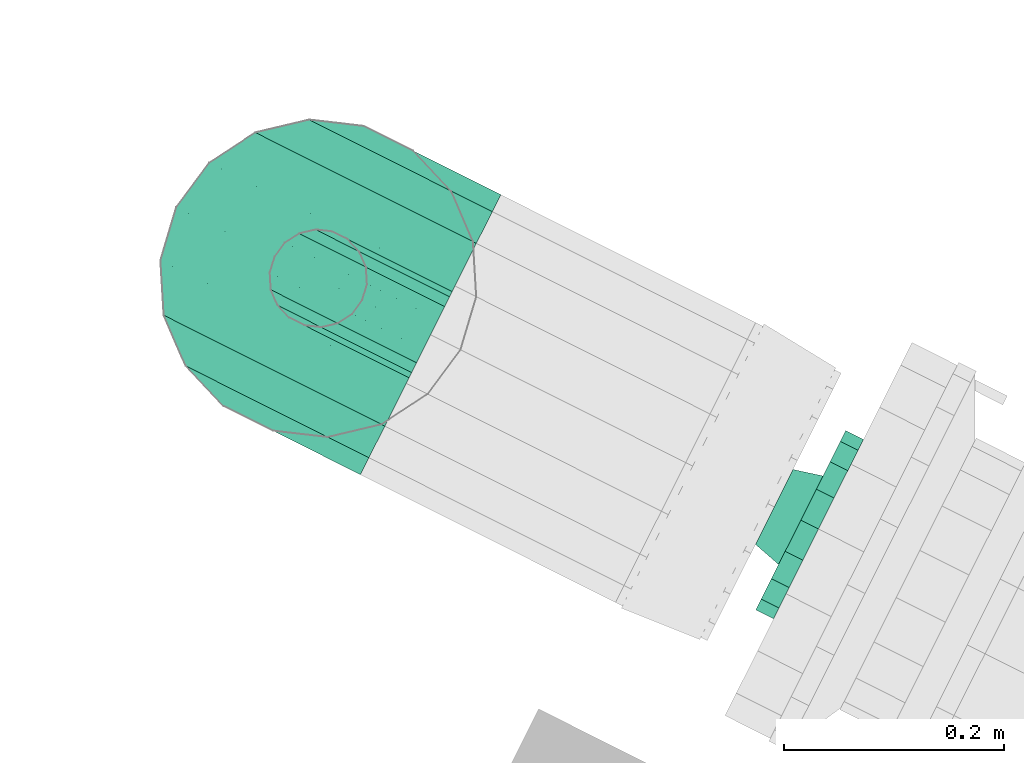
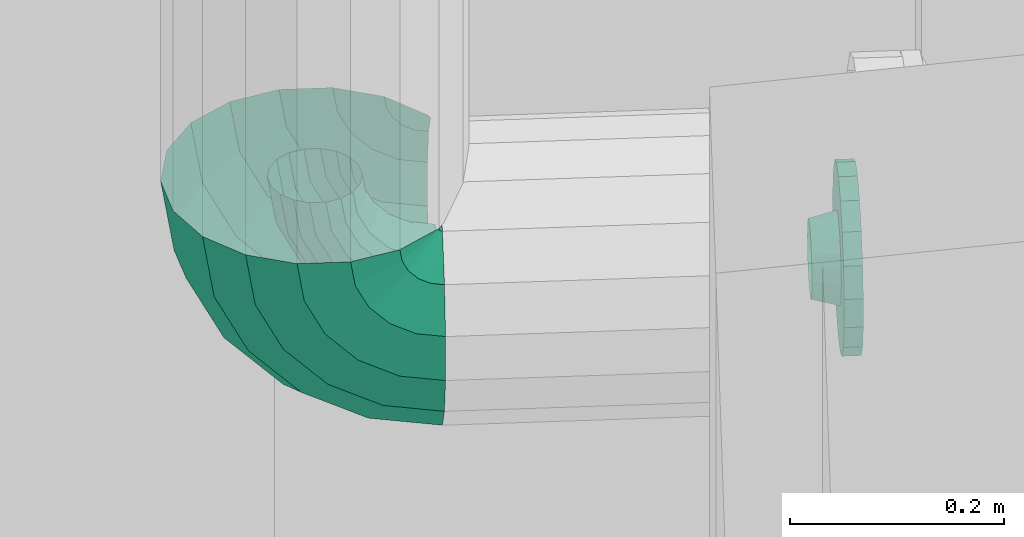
# One storey, part 155 of 206: 1 flow fitting, 1 flow segment.
"""IFC2X3 building model written with IfcOpenShell, lengths in metres."""

from ifc_helpers import new_model, si_unit, derived_unit, direction, frame, origin, place, context, subcontext, project, spatial, face_set, surface_model, source, transform, mapped, material, type_object, type_shapes, element, save


model = new_model("IFC2X3")

# Units and contexts
model_context = context("Model", 3, precision=5.2338327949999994e-05, world=origin(), true_north=direction((0.0, 1.0)))
body_context = subcontext(model_context, "Body", "Model", "MODEL_VIEW")
ifc_project = project(units=[si_unit("LENGTHUNIT", "METRE"), si_unit("AREAUNIT", "SQUARE_METRE"), si_unit("VOLUMEUNIT", "CUBIC_METRE"), si_unit("MASSUNIT", "GRAM", prefix="KILO"), si_unit("PLANEANGLEUNIT", "RADIAN"), derived_unit("THERMALTRANSMITTANCEUNIT", [(si_unit("MASSUNIT", "GRAM", prefix="KILO"), 1), (si_unit("THERMODYNAMICTEMPERATUREUNIT", "KELVIN"), -1), (si_unit("TIMEUNIT", "SECOND"), -3)])], contexts=[model_context])

# Site, building, storey
site_placement = place(None, frame((0.0, 0.0, 0.0), z_axis=(0.0, 0.0, 1.0), x_axis=(0.8939966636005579, -0.4480736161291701, 0.0)))
site = spatial("IfcSite", under=ifc_project, at=site_placement, Name="Default", CompositionType="ELEMENT")
building_placement = place(site_placement, origin())
building = spatial("IfcBuilding", under=site, at=building_placement, CompositionType="ELEMENT")
storey_placement = place(building_placement, origin())
storey = spatial("IfcBuildingStorey", under=building, at=storey_placement, Name="Erdgeschoss", CompositionType="ELEMENT", Elevation=0.0)

# Flow segment
ifc_material = material(Name="IfcSurfaceStyle #1741")
distribution_element_type_1 = type_object("IfcDistributionElementType", Name="Rohrbogen 347946:Rohrbogen 347946", material=ifc_material)
shared_shape_1 = source(origin(), body_context, "Body", "SurfaceModel", [
    surface_model("IfcFaceBasedSurfaceModel", [(28.509229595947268, 10.40320802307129, 2.3790363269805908), (28.501474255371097, 10.40320802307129, 2.428000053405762), (28.511778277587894, 10.41841174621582, 2.379864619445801), (28.504155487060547, 10.41841174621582, 2.428000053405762), (28.531735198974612, 10.40320802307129, 2.3348654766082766), (28.533904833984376, 10.41841174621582, 2.3364411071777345), (28.56679119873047, 10.40320802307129, 2.299811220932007), (28.568365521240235, 10.41841174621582, 2.3019799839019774), (28.610960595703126, 10.40320802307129, 2.2773050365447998), (28.61178845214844, 10.41841174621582, 2.2798545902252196), (28.659925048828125, 10.40320802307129, 2.26954998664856), (28.659925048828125, 10.41841174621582, 2.2722306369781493), (28.51187362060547, 10.431780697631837, 2.428000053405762), (28.51911968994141, 10.431780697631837, 2.382249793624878), (28.540148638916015, 10.431780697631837, 2.3409780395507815), (28.57290245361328, 10.431780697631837, 2.3082245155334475), (28.614174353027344, 10.431780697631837, 2.2871954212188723), (28.659925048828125, 10.431780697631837, 2.2799493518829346), (28.523700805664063, 10.44170334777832, 2.428000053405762), (28.530367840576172, 10.44170334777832, 2.385904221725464), (28.549715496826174, 10.44170334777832, 2.347928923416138), (28.579853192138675, 10.44170334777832, 2.3177916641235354), (28.617829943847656, 10.44170334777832, 2.2984422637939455), (28.659925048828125, 10.44170334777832, 2.2917749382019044), (28.54416234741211, 10.44698325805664, 2.390386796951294), (28.538206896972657, 10.44698325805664, 2.428000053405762), (28.561451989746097, 10.44698325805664, 2.356455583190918), (28.588380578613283, 10.44698325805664, 2.329527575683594), (28.62231106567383, 10.44698325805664, 2.3122386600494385), (28.659925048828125, 10.44698325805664, 2.30628132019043), (28.5536431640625, 10.44698325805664, 2.428000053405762), (28.558845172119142, 10.44698325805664, 2.395157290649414), (28.57394192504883, 10.44698325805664, 2.365529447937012), (28.597454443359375, 10.44698325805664, 2.342016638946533), (28.627082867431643, 10.44698325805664, 2.326920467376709), (28.659925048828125, 10.44698325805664, 2.321718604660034), (28.57264200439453, 10.44170334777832, 2.39964001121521), (28.568149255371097, 10.44170334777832, 2.428000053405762), (28.585676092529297, 10.44170334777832, 2.3740559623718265), (28.605981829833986, 10.44170334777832, 2.353752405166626), (28.631563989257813, 10.44170334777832, 2.3407167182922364), (28.659925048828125, 10.44170334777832, 2.33622498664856), (28.57997644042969, 10.431780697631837, 2.428000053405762), (28.583887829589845, 10.431780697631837, 2.40329429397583), (28.59524527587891, 10.431780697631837, 2.3810069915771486), (28.612932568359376, 10.431780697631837, 2.36331969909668), (28.635219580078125, 10.431780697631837, 2.3519637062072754), (28.659925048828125, 10.431780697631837, 2.3480507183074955), (28.59122924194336, 10.41841174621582, 2.4056794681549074), (28.58769457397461, 10.41841174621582, 2.428000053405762), (28.60148908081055, 10.41841174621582, 2.385543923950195), (28.617469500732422, 10.41841174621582, 2.3695642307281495), (28.637603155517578, 10.41841174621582, 2.359304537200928), (28.659925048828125, 10.41841174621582, 2.3557692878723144), (28.590375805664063, 10.40320802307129, 2.428000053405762), (28.593777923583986, 10.40320802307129, 2.4065079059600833), (28.603658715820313, 10.40320802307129, 2.3871195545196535), (28.61904382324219, 10.40320802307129, 2.3717328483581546), (28.638433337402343, 10.40320802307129, 2.361854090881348), (28.659925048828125, 10.40320802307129, 2.3584499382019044), (28.58769457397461, 10.388005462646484, 2.428000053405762), (28.59122924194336, 10.388005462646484, 2.4056794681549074), (28.60148908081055, 10.388005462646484, 2.385543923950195), (28.617469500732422, 10.388005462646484, 2.3695642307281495), (28.637603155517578, 10.388005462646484, 2.359304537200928), (28.659925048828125, 10.388005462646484, 2.3557692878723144), (28.57997644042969, 10.37463651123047, 2.428000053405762), (28.583887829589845, 10.37463651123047, 2.40329429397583), (28.59524527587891, 10.37463651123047, 2.3810069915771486), (28.612932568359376, 10.37463651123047, 2.36331969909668), (28.635219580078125, 10.37463651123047, 2.3519637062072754), (28.659925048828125, 10.37463651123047, 2.3480507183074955), (28.57264200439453, 10.364713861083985, 2.39964001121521), (28.568149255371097, 10.364713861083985, 2.428000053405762), (28.585676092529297, 10.364713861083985, 2.3740559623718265), (28.605981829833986, 10.364713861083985, 2.353752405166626), (28.631563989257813, 10.364713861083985, 2.3407167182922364), (28.659925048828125, 10.364713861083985, 2.33622498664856), (28.5536431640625, 10.359433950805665, 2.428000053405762), (28.558845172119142, 10.359433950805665, 2.395157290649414), (28.57394192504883, 10.359433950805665, 2.365529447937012), (28.597454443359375, 10.359433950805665, 2.342016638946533), (28.627082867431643, 10.359433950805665, 2.326920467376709), (28.659925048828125, 10.359433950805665, 2.321718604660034), (28.54416234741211, 10.359433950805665, 2.390386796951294), (28.538206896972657, 10.359433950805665, 2.428000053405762), (28.561451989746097, 10.359433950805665, 2.356455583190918), (28.588380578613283, 10.359433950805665, 2.329527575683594), (28.62231106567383, 10.359433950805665, 2.3122386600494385), (28.659925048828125, 10.359433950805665, 2.30628132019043), (28.523700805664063, 10.364713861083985, 2.428000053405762), (28.530367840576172, 10.364713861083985, 2.385904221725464), (28.549715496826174, 10.364713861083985, 2.347928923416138), (28.579853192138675, 10.364713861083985, 2.3177916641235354), (28.617829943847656, 10.364713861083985, 2.2984422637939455), (28.659925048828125, 10.364713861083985, 2.2917749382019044), (28.51187362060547, 10.37463651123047, 2.428000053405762), (28.51911968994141, 10.37463651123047, 2.382249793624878), (28.540148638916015, 10.37463651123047, 2.3409780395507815), (28.57290245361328, 10.37463651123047, 2.3082245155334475), (28.614174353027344, 10.37463651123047, 2.2871954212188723), (28.659925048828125, 10.37463651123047, 2.2799493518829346), (28.511778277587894, 10.388005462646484, 2.379864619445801), (28.504155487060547, 10.388005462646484, 2.428000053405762), (28.533904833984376, 10.388005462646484, 2.3364411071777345), (28.568365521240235, 10.388005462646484, 2.3019799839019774), (28.41412377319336, 10.40320802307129, 2.3481345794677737), (28.401475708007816, 10.40320802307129, 2.428000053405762), (28.422409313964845, 10.452613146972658, 2.3508265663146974), (28.41018680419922, 10.452613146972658, 2.428000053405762), (28.450833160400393, 10.40320802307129, 2.27608694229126), (28.457881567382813, 10.452613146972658, 2.2812072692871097), (28.50801106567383, 10.40320802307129, 2.2189096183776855), (28.51313168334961, 10.452613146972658, 2.2259572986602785), (28.580060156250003, 10.40320802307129, 2.1821995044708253), (28.582750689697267, 10.452613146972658, 2.1904844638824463), (28.659925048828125, 10.40320802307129, 2.16954998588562), (28.659925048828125, 10.452613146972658, 2.178261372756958), (28.435268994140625, 10.496059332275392, 2.428000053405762), (28.446265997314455, 10.496059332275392, 2.3585776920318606), (28.478175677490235, 10.496059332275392, 2.2959509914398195), (28.527874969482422, 10.496059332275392, 2.246250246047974), (28.59050137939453, 10.496059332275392, 2.214340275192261), (28.659925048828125, 10.496059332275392, 2.2033448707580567), (28.47369920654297, 10.528306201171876, 2.428000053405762), (28.482814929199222, 10.528306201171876, 2.3704532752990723), (28.509264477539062, 10.528306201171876, 2.3185397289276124), (28.55046428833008, 10.528306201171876, 2.2773407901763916), (28.602377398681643, 10.528306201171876, 2.2508894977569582), (28.659925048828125, 10.528306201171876, 2.2417749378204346), (28.52764940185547, 10.545463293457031, 2.3850208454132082), (28.52084051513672, 10.545463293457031, 2.428000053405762), (28.547404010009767, 10.545463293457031, 2.346248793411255), (28.578174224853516, 10.545463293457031, 2.315479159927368), (28.61694627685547, 10.545463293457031, 2.2957236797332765), (28.659925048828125, 10.545463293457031, 2.2889165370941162), (28.575360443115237, 10.545463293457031, 2.4005232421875), (28.571007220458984, 10.545463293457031, 2.428000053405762), (28.587989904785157, 10.545463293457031, 2.375736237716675), (28.60766079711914, 10.545463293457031, 2.356065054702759), (28.63244765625, 10.545463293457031, 2.3434353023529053), (28.659925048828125, 10.545463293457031, 2.339083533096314), (28.61815085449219, 10.528306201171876, 2.428000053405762), (28.620194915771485, 10.528306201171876, 2.415090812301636), (28.62612711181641, 10.528306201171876, 2.4034453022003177), (28.63537073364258, 10.528306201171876, 2.3942032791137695), (28.64701653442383, 10.528306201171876, 2.3882696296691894), (28.659925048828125, 10.528306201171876, 2.3862249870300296), (28.65657874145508, 10.496059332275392, 2.428000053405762), (28.65674384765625, 10.496059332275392, 2.4269663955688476), (28.65721823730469, 10.496059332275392, 2.4260338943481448), (28.657957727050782, 10.496059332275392, 2.4252939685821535), (28.658890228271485, 10.496059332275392, 2.4248188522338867), (28.659925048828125, 10.496059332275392, 2.4246550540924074), (28.659925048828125, 10.49026549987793, 2.428000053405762), (28.659925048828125, 10.490511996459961, 2.427098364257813), (28.659925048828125, 10.316151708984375, 2.428000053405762), (28.659925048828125, 10.315904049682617, 2.427098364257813), (28.65674384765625, 10.310357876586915, 2.4269663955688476), (28.65657874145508, 10.310357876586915, 2.428000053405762), (28.65721823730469, 10.310357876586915, 2.4260338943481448), (28.657957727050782, 10.310357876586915, 2.4252939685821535), (28.658890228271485, 10.310357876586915, 2.4248188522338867), (28.659925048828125, 10.310357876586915, 2.4246550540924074), (28.620194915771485, 10.27811100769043, 2.415090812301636), (28.61815085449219, 10.27811100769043, 2.428000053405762), (28.62612711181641, 10.27811100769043, 2.4034453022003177), (28.63537073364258, 10.27811100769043, 2.3942032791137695), (28.64701653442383, 10.27811100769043, 2.3882696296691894), (28.659925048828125, 10.27811100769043, 2.3862249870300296), (28.571007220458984, 10.260952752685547, 2.428000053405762), (28.575360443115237, 10.260952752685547, 2.4005232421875), (28.587989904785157, 10.260952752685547, 2.375736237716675), (28.60766079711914, 10.260952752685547, 2.356065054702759), (28.63244765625, 10.260952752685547, 2.3434353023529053), (28.659925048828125, 10.260952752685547, 2.339083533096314), (28.52764940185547, 10.260952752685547, 2.3850208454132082), (28.52084051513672, 10.260952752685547, 2.428000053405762), (28.547404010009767, 10.260952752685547, 2.346248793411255), (28.578174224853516, 10.260952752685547, 2.315479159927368), (28.61694627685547, 10.260952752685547, 2.2957236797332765), (28.659925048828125, 10.260952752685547, 2.2889165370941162), (28.47369920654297, 10.27811100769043, 2.428000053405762), (28.482814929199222, 10.27811100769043, 2.3704532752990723), (28.509264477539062, 10.27811100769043, 2.3185397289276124), (28.55046428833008, 10.27811100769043, 2.2773407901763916), (28.602377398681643, 10.27811100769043, 2.2508894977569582), (28.659925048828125, 10.27811100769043, 2.2417749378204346), (28.446265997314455, 10.310357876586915, 2.3585776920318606), (28.435268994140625, 10.310357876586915, 2.428000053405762), (28.478175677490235, 10.310357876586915, 2.2959509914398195), (28.527874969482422, 10.310357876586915, 2.246250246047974), (28.59050137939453, 10.310357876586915, 2.214340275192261), (28.659925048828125, 10.310357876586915, 2.2033448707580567), (28.422409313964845, 10.35380406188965, 2.3508265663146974), (28.41018680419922, 10.35380406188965, 2.428000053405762), (28.457881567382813, 10.35380406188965, 2.2812072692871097), (28.51313168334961, 10.35380406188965, 2.2259572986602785), (28.582750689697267, 10.35380406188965, 2.1904844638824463), (28.659925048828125, 10.35380406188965, 2.178261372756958), (28.61178845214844, 10.388005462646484, 2.2798545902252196), (28.659925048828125, 10.388005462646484, 2.2722306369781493)], [face_set([[[0, 1, 2]], [[3, 2, 1]], [[4, 0, 2]], [[2, 5, 4]], [[6, 4, 5]], [[5, 7, 6]], [[8, 6, 7]], [[7, 9, 8]], [[10, 8, 9]], [[9, 11, 10]], [[2, 3, 12]], [[12, 13, 2]], [[5, 2, 14]], [[13, 14, 2]], [[7, 5, 15]], [[14, 15, 5]], [[9, 7, 16]], [[15, 16, 7]], [[11, 9, 17]], [[16, 17, 9]], [[13, 12, 18]], [[18, 19, 13]], [[14, 13, 19]], [[19, 20, 14]], [[15, 14, 20]], [[20, 21, 15]], [[16, 15, 21]], [[21, 22, 16]], [[17, 16, 22]], [[22, 23, 17]], [[19, 18, 24]], [[25, 24, 18]], [[20, 19, 26]], [[24, 26, 19]], [[21, 20, 27]], [[26, 27, 20]], [[22, 21, 28]], [[27, 28, 21]], [[23, 22, 29]], [[28, 29, 22]], [[24, 25, 30]], [[30, 31, 24]], [[26, 24, 31]], [[31, 32, 26]], [[27, 26, 33]], [[32, 33, 26]], [[28, 27, 34]], [[33, 34, 27]], [[29, 28, 34]], [[34, 35, 29]], [[31, 30, 36]], [[37, 36, 30]], [[32, 31, 38]], [[36, 38, 31]], [[33, 32, 39]], [[38, 39, 32]], [[34, 33, 40]], [[39, 40, 33]], [[35, 34, 41]], [[40, 41, 34]], [[36, 37, 42]], [[42, 43, 36]], [[38, 36, 43]], [[43, 44, 38]], [[39, 38, 44]], [[44, 45, 39]], [[40, 39, 46]], [[45, 46, 39]], [[41, 40, 46]], [[46, 47, 41]], [[43, 42, 48]], [[49, 48, 42]], [[44, 43, 50]], [[48, 50, 43]], [[45, 44, 51]], [[50, 51, 44]], [[46, 45, 52]], [[51, 52, 45]], [[47, 46, 52]], [[52, 53, 47]], [[48, 49, 54]], [[54, 55, 48]], [[50, 48, 55]], [[55, 56, 50]], [[51, 50, 56]], [[56, 57, 51]], [[52, 51, 58]], [[57, 58, 51]], [[53, 52, 59]], [[58, 59, 52]], [[55, 54, 60]], [[60, 61, 55]], [[56, 55, 62]], [[61, 62, 55]], [[57, 56, 63]], [[62, 63, 56]], [[58, 57, 64]], [[63, 64, 57]], [[59, 58, 64]], [[64, 65, 59]], [[61, 60, 66]], [[66, 67, 61]], [[62, 61, 67]], [[67, 68, 62]], [[63, 62, 68]], [[68, 69, 63]], [[64, 63, 69]], [[69, 70, 64]], [[65, 64, 71]], [[70, 71, 64]], [[67, 66, 72]], [[73, 72, 66]], [[68, 67, 74]], [[72, 74, 67]], [[69, 68, 75]], [[74, 75, 68]], [[70, 69, 75]], [[75, 76, 70]], [[71, 70, 77]], [[76, 77, 70]], [[72, 73, 78]], [[78, 79, 72]], [[74, 72, 79]], [[79, 80, 74]], [[75, 74, 80]], [[80, 81, 75]], [[76, 75, 81]], [[81, 82, 76]], [[77, 76, 82]], [[82, 83, 77]], [[79, 78, 84]], [[85, 84, 78]], [[80, 79, 86]], [[84, 86, 79]], [[81, 80, 86]], [[86, 87, 81]], [[82, 81, 87]], [[87, 88, 82]], [[83, 82, 89]], [[88, 89, 82]], [[84, 85, 90]], [[90, 91, 84]], [[86, 84, 91]], [[91, 92, 86]], [[87, 86, 92]], [[92, 93, 87]], [[88, 87, 93]], [[93, 94, 88]], [[89, 88, 95]], [[94, 95, 88]], [[91, 90, 96]], [[96, 97, 91]], [[92, 91, 98]], [[97, 98, 91]], [[93, 92, 99]], [[98, 99, 92]], [[94, 93, 99]], [[99, 100, 94]], [[95, 94, 100]], [[100, 101, 95]], [[97, 96, 102]], [[103, 102, 96]], [[98, 97, 102]], [[102, 104, 98]], [[99, 98, 104]], [[104, 105, 99]], [[102, 103, 0]], [[1, 0, 103]], [[104, 102, 4]], [[0, 4, 102]], [[105, 104, 6]], [[4, 6, 104]], [[106, 107, 108]], [[109, 108, 107]], [[110, 106, 111]], [[108, 111, 106]], [[112, 110, 113]], [[111, 113, 110]], [[114, 112, 115]], [[113, 115, 112]], [[116, 114, 117]], [[115, 117, 114]], [[108, 109, 118]], [[118, 119, 108]], [[111, 108, 119]], [[119, 120, 111]], [[113, 111, 120]], [[120, 121, 113]], [[115, 113, 121]], [[121, 122, 115]], [[117, 115, 122]], [[122, 123, 117]], [[119, 118, 124]], [[124, 125, 119]], [[120, 119, 126]], [[125, 126, 119]], [[121, 120, 127]], [[126, 127, 120]], [[122, 121, 128]], [[127, 128, 121]], [[123, 122, 129]], [[128, 129, 122]], [[125, 124, 130]], [[131, 130, 124]], [[126, 125, 132]], [[130, 132, 125]], [[127, 126, 133]], [[132, 133, 126]], [[128, 127, 134]], [[133, 134, 127]], [[129, 128, 134]], [[134, 135, 129]], [[130, 131, 136]], [[137, 136, 131]], [[132, 130, 136]], [[136, 138, 132]], [[133, 132, 139]], [[138, 139, 132]], [[134, 133, 140]], [[139, 140, 133]], [[135, 134, 140]], [[140, 141, 135]], [[136, 137, 142]], [[142, 143, 136]], [[138, 136, 143]], [[143, 144, 138]], [[139, 138, 145]], [[144, 145, 138]], [[140, 139, 146]], [[145, 146, 139]], [[141, 140, 146]], [[146, 147, 141]], [[143, 142, 148]], [[148, 149, 143]], [[144, 143, 150]], [[149, 150, 143]], [[145, 144, 150]], [[150, 151, 145]], [[146, 145, 152]], [[151, 152, 145]], [[147, 146, 152]], [[152, 153, 147]], [[154, 149, 155]], [[154, 155, 148]], [[149, 148, 155]], [[149, 154, 150]], [[151, 150, 154]], [[152, 151, 154]], [[153, 152, 154]], [[156, 157, 158]], [[159, 158, 157]], [[157, 156, 159]], [[158, 160, 156]], [[156, 160, 161]], [[162, 156, 161]], [[163, 156, 162]], [[158, 159, 164]], [[165, 164, 159]], [[160, 158, 164]], [[164, 166, 160]], [[161, 160, 167]], [[166, 167, 160]], [[162, 161, 167]], [[167, 168, 162]], [[163, 162, 169]], [[168, 169, 162]], [[164, 165, 170]], [[170, 171, 164]], [[166, 164, 171]], [[171, 172, 166]], [[167, 166, 172]], [[172, 173, 167]], [[168, 167, 173]], [[173, 174, 168]], [[169, 168, 175]], [[174, 175, 168]], [[171, 170, 176]], [[177, 176, 170]], [[172, 171, 178]], [[176, 178, 171]], [[173, 172, 178]], [[178, 179, 173]], [[174, 173, 179]], [[179, 180, 174]], [[175, 174, 181]], [[180, 181, 174]], [[176, 177, 182]], [[182, 183, 176]], [[178, 176, 183]], [[183, 184, 178]], [[179, 178, 184]], [[184, 185, 179]], [[180, 179, 185]], [[185, 186, 180]], [[181, 180, 187]], [[186, 187, 180]], [[183, 182, 188]], [[189, 188, 182]], [[184, 183, 188]], [[188, 190, 184]], [[185, 184, 190]], [[190, 191, 185]], [[186, 185, 191]], [[191, 192, 186]], [[187, 186, 192]], [[192, 193, 187]], [[188, 189, 194]], [[195, 194, 189]], [[190, 188, 196]], [[194, 196, 188]], [[191, 190, 197]], [[196, 197, 190]], [[192, 191, 198]], [[197, 198, 191]], [[193, 192, 199]], [[198, 199, 192]], [[194, 195, 107]], [[107, 106, 194]], [[196, 194, 106]], [[106, 110, 196]], [[197, 196, 110]], [[110, 112, 197]], [[198, 197, 112]], [[112, 114, 198]], [[199, 198, 114]], [[114, 116, 199]], [[100, 99, 105]], [[105, 200, 100]], [[101, 100, 200]], [[200, 201, 101]], [[200, 105, 8]], [[6, 8, 105]], [[201, 200, 10]], [[8, 10, 200]]])]),
])
type_shapes(distribution_element_type_1, [shared_shape_1])
flow_segment_placement = place(storey_placement, origin())
element("IfcFlowSegment", 1, at=flow_segment_placement, inside=storey, type_object=distribution_element_type_1, material=ifc_material, Name="Rohrbogen", ObjectType="Rohrbogen", context=body_context, shape_type="MappedRepresentation", body=[
    mapped(shared_shape_1, transform((0.0, 0.0, 0.0), scale=1.0)),
])

# Flow fitting
distribution_element_type_2 = type_object("IfcDistributionElementType", Name="Flansch 348272:Flansch 348272", material=ifc_material)
shared_shape_2 = source(origin(), body_context, "Body", "SurfaceModel", [
    surface_model("IfcFaceBasedSurfaceModel", [(29.05412798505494, 10.403208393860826, 2.4065), (29.05412798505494, 10.434845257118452, 2.400921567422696), (29.03612798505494, 10.434845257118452, 2.400921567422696), (29.03612798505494, 10.403208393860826, 2.4065), (29.05412798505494, 10.462666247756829, 2.384859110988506), (29.03612798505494, 10.462666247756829, 2.384859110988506), (29.05412798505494, 10.483315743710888, 2.360249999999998), (29.03612798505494, 10.483315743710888, 2.360249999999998), (29.05412798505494, 10.494303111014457, 2.3300624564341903), (29.03612798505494, 10.494303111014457, 2.3300624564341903), (29.05412798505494, 10.494303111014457, 2.2979375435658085), (29.03612798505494, 10.494303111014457, 2.2979375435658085), (29.05412798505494, 10.48331574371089, 2.267749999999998), (29.03612798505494, 10.48331574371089, 2.267749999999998), (29.05412798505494, 10.462666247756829, 2.2431408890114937), (29.03612798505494, 10.462666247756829, 2.2431408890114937), (29.05412798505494, 10.434845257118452, 2.227078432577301), (29.03612798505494, 10.434845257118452, 2.227078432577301), (29.05412798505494, 10.403208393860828, 2.221499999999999), (29.03612798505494, 10.403208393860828, 2.221499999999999), (29.05412798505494, 10.371571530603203, 2.2270784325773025), (29.03612798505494, 10.371571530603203, 2.2270784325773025), (29.05412798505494, 10.343750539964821, 2.2431408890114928), (29.03612798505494, 10.343750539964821, 2.2431408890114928), (29.05412798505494, 10.323101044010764, 2.2677499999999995), (29.03612798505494, 10.323101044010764, 2.2677499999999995), (29.05412798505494, 10.312113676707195, 2.2979375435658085), (29.03612798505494, 10.312113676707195, 2.2979375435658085), (29.05412798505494, 10.312113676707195, 2.3300624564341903), (29.03612798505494, 10.312113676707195, 2.3300624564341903), (29.05412798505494, 10.323101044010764, 2.3602499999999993), (29.03612798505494, 10.323101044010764, 2.3602499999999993), (29.05412798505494, 10.343750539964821, 2.3848591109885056), (29.03612798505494, 10.343750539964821, 2.3848591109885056), (29.05412798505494, 10.3715715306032, 2.4009215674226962), (29.03612798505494, 10.3715715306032, 2.4009215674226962), (29.03612798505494, 10.403208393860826, 2.313999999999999), (29.03612798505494, 10.448208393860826, 2.314), (29.03612798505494, 10.445494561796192, 2.2986090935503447), (29.009127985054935, 10.438963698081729, 2.3009861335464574), (29.009127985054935, 10.441258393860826, 2.3139999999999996), (29.03612798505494, 10.43768039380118, 2.2850745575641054), (29.009127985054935, 10.432356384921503, 2.2895419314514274), (29.03612798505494, 10.425708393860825, 2.2750288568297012), (29.009127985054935, 10.422233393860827, 2.2810477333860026), (29.03612798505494, 10.411022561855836, 2.269683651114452), (29.009127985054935, 10.409815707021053, 2.2765280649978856), (29.03612798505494, 10.395394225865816, 2.269683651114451), (29.009127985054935, 10.3966010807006, 2.2765280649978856), (29.03612798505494, 10.380708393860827, 2.2750288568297), (29.009127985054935, 10.384183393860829, 2.2810477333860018), (29.03612798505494, 10.368736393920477, 2.2850745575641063), (29.009127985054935, 10.374060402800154, 2.2895419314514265), (29.03612798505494, 10.36092222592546, 2.2986090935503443), (29.009127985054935, 10.367453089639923, 2.3009861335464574), (29.03612798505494, 10.35820839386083, 2.3139999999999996), (29.009127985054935, 10.365158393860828, 2.3139999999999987), (29.03612798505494, 10.360922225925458, 2.329390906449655), (29.009127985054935, 10.367453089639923, 2.3270138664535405), (29.03612798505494, 10.368736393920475, 2.3429254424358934), (29.009127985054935, 10.374060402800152, 2.338458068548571), (29.03612798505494, 10.380708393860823, 2.3529711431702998), (29.009127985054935, 10.384183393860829, 2.346952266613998), (29.03612798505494, 10.395394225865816, 2.358316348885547), (29.009127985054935, 10.3966010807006, 2.3514719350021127), (29.03612798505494, 10.411022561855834, 2.3583163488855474), (29.009127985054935, 10.40981570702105, 2.3514719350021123), (29.03612798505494, 10.425708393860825, 2.3529711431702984), (29.009127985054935, 10.422233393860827, 2.346952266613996), (29.03612798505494, 10.437680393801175, 2.3429254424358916), (29.009127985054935, 10.432356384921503, 2.3384580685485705), (29.03612798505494, 10.445494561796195, 2.3293909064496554), (29.009127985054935, 10.438963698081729, 2.3270138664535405)], [face_set([[[0, 1, 2, 3]], [[1, 4, 5, 2]], [[4, 6, 7, 5]], [[6, 8, 9, 7]], [[8, 10, 11, 9]], [[10, 12, 13, 11]], [[12, 14, 15, 13]], [[14, 16, 17, 15]], [[16, 18, 19, 17]], [[18, 20, 21, 19]], [[20, 22, 23, 21]], [[22, 24, 25, 23]], [[24, 26, 27, 25]], [[26, 28, 29, 27]], [[28, 30, 31, 29]], [[30, 32, 33, 31]], [[32, 34, 35, 33]], [[34, 0, 3, 35]], [[36, 35, 3]], [[36, 33, 35]], [[36, 31, 33]], [[36, 29, 31]], [[36, 27, 29]], [[36, 25, 27]], [[36, 23, 25]], [[36, 21, 23]], [[36, 19, 21]], [[36, 17, 19]], [[36, 15, 17]], [[36, 13, 15]], [[36, 11, 13]], [[36, 9, 11]], [[36, 7, 9]], [[36, 5, 7]], [[36, 2, 5]], [[36, 3, 2]], [[37, 38, 39, 40]], [[38, 41, 42, 39]], [[41, 43, 44, 42]], [[43, 45, 46, 44]], [[45, 47, 48, 46]], [[47, 49, 50, 48]], [[49, 51, 52, 50]], [[51, 53, 54, 52]], [[53, 55, 56, 54]], [[55, 57, 58, 56]], [[57, 59, 60, 58]], [[59, 61, 62, 60]], [[61, 63, 64, 62]], [[63, 65, 66, 64]], [[65, 67, 68, 66]], [[67, 69, 70, 68]], [[69, 71, 72, 70]], [[71, 37, 40, 72]]])]),
])
type_shapes(distribution_element_type_2, [shared_shape_2])
flow_fitting_placement = place(storey_placement, origin())
element("IfcFlowFitting", 2, at=flow_fitting_placement, inside=storey, type_object=distribution_element_type_2, material=ifc_material, Name="Flansch", ObjectType="Flansch", context=body_context, shape_type="MappedRepresentation", body=[
    mapped(shared_shape_2, transform((0.0, 0.0, 0.0), scale=1.0)),
])

save(model, "model.ifc")
